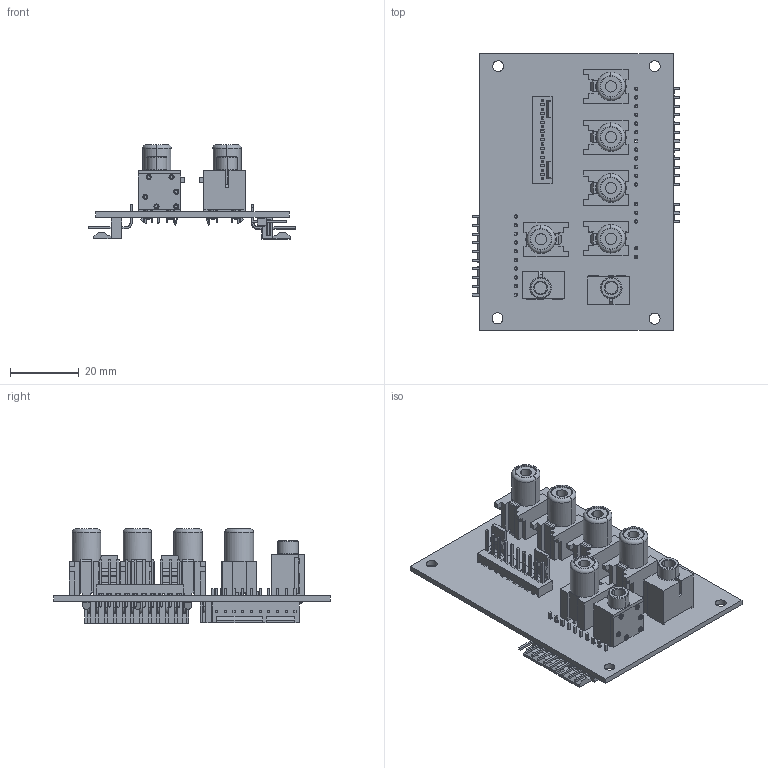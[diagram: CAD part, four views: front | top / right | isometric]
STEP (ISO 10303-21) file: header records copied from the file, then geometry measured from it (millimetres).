
FILE_DESCRIPTION(('KiCad electronic assembly'),'2;1');
FILE_NAME('AV Jack Panel.step','2023-10-03T15:39:01',('Pcbnew'),('Kicad' ),'Open CASCADE STEP processor 7.6','KiCad to STEP converter', 'Unknown');
FILE_SCHEMA(('AUTOMOTIVE_DESIGN { 1 0 10303 214 1 1 1 1 }'));
Length unit declared in the file: millimetre
Products named in the file (16): AV Jack Panel 1; Molex_KK-254_AE-6410-10A_1x10_P2.54mm_Vertical; SOLID; CUI_DEVICES_RCJ-052; 47257-0001; COMPOUND; 022122104; 022122034; 022122124; PinHeader_1x02_P2.54mm_Horizontal; _autosave-AV Jack Panel PCB
Assembly tree (20 placements, depth 3):
  AV Jack Panel 1
    Molex_KK-254_AE-6410-10A_1x10_P2.54mm_Vertical
      SOLID
    CUI_DEVICES_RCJ-052  x5
      SOLID
    47257-0001  x2
      COMPOUND
    022122104
      COMPOUND
    022122034
      COMPOUND
    022122124
      COMPOUND
    PinHeader_1x02_P2.54mm_Horizontal
      SOLID
    _autosave-AV Jack Panel PCB
Bounding box: 60.68 x 80.64 x 27.55 mm (x, y, z)
Volume: 19021.2 mm3; surface area: 22084.7 mm2
Topology: 23 solids, 23 shells, 1521 faces, 3990 edges, 2681 vertices
Faces by surface type: plane 1229, cylinder 259, torus 17, cone 16
Full cylindrical faces by diameter (mm): 1 x27, 1.19 x10, 1.5 x8, 1.6 x2, 3.2 x4
Entity records: 77748 total; most frequent: CARTESIAN_POINT 13916, DIRECTION 11448, LINE 8157, VECTOR 8157, ORIENTED_EDGE 5944, PCURVE 5944, DEFINITIONAL_REPRESENTATION 5944, EDGE_CURVE 2972
